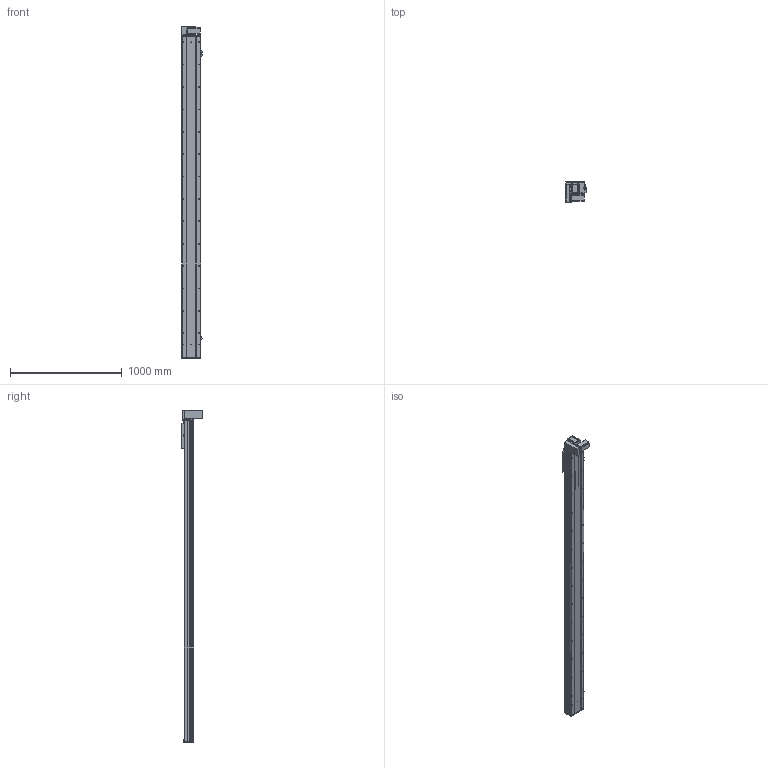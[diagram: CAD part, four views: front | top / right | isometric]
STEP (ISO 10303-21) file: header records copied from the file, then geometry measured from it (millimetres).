
FILE_DESCRIPTION (( 'STEP AP203' ), '1' );
FILE_NAME ('Y170CB-D105-S2550-BM-P400W.STEP', '2020-02-20T07:44:54', ( '微软用户' ), ( '微软中国' ), 'SwSTEP 2.0', 'SolidWorks 2017', '' );
FILE_SCHEMA (( 'CONFIG_CONTROL_DESIGN' ));
Length unit declared in the file: millimetre
Products named in the file (18): Y100-135俋离換覜ん--; 70CB-掛极-; Y170CB-陔俋离換覜結え---; --70CB --喘謫眊楊擘啣-; Y1埴倛裔; 70CB-耜裔啣-; 17B-耜蚾蟀諉啣----; 70C--詩湍揤踡え-; 00B-俋欶BM--163; 70CB--耜裔; 70B喘謫眊----; 70C-雄赽釱-奻-; B-源倛裔啣; Y170CB-D105-S2550-BM-P400W; 0C--雄赽釱俋欶-170; 0B-萇儂楊擘啣; 70CB-詩湍--; san松下电机400不带刹车----
Assembly tree (21 placements, depth 2):
  Y170CB-D105-S2550-BM-P400W
    B-源倛裔啣
    0B-萇儂楊擘啣
    san松下电机400不带刹车----
    70CB-掛极-
    --70CB --喘謫眊楊擘啣-
    70CB-耜裔啣-  x2
    70C--詩湍揤踡え-  x2
    70CB--耜裔
    70C-雄赽釱-奻-
    0C--雄赽釱俋欶-170
    70CB-詩湍--
    Y100-135俋离換覜ん--  x3
    Y170CB-陔俋离換覜結え---
    Y1埴倛裔
    17B-耜蚾蟀諉啣----
    00B-俋欶BM--163
    70B喘謫眊----
Bounding box: 183.5 x 184 x 2966 mm (x, y, z)
Volume: 12642115.1 mm3; surface area: 4566001.5 mm2
Topology: 21 solids, 21 shells, 1071 faces, 2885 edges, 1914 vertices
Faces by surface type: cylinder 585, plane 462, cone 24
Entity records: 34372 total; most frequent: CARTESIAN_POINT 6336, DIRECTION 5594, ORIENTED_EDGE 5252, EDGE_CURVE 2626, AXIS2_PLACEMENT_3D 2068, VERTEX_POINT 1744, LINE 1458, VECTOR 1458
